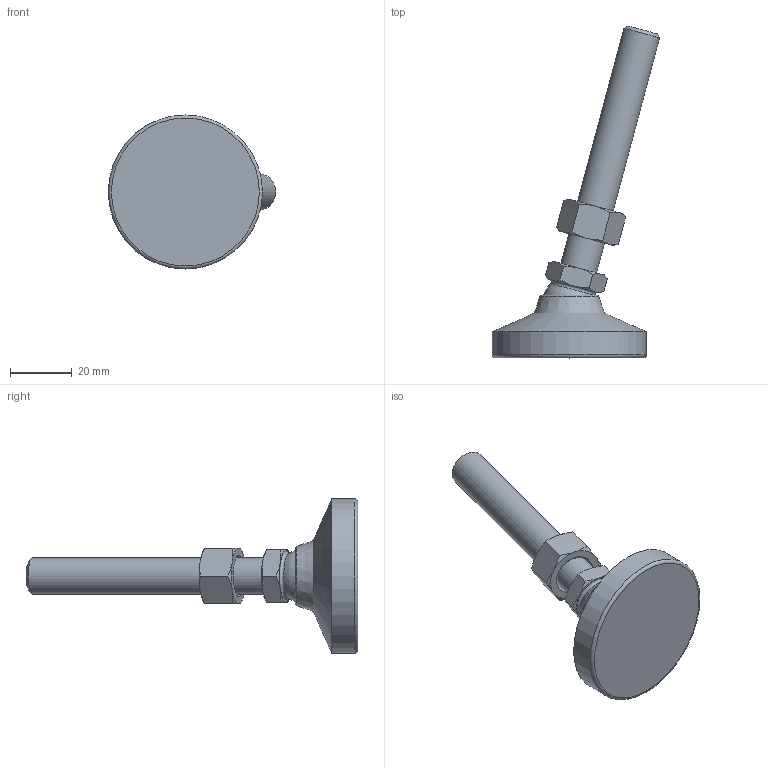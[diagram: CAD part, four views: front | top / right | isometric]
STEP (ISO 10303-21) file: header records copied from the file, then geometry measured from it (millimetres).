
FILE_DESCRIPTION( ( 'STEP AP214' ), ' ' );
FILE_NAME( 'O:/ganter_2015/teil_2/2_5/gn343_2/gn343_2_kr/Levelling foot with threaded stud GN 343.2-50-M12-80-KR-(-15).stp', '2015-10-26T09:13:51', ( '' ), ( '' ), ' ', 'PARTsolutions', ' ' );
FILE_SCHEMA( ( 'AUTOMOTIVE_DESIGN { 1 0 10303 214 1 1 1 1 }' ) );
Length unit declared in the file: millimetre
Products named in the file (4): Levelling foot with threaded stud GN 343.2-50-M12-80-KR-(-15); _Levelling foot with threaded stud GN 343.2-50-M12-80-KR-(-15)_foot; _Levelling foot with threaded stud GN 343.2-50-M12-80-KR-(-15)_screw; _Levelling foot with threaded stud GN 343.2-50-M12-80-KR-(-15)_nut
Assembly tree (3 placements, depth 2):
  Levelling foot with threaded stud GN 343.2-50-M12-80-KR-(-15)
    _Levelling foot with threaded stud GN 343.2-50-M12-80-KR-(-15)_foot
    _Levelling foot with threaded stud GN 343.2-50-M12-80-KR-(-15)_screw
    _Levelling foot with threaded stud GN 343.2-50-M12-80-KR-(-15)_nut
Bounding box: 54.29 x 107.67 x 50 mm (x, y, z)
Volume: 38445.7 mm3; surface area: 11780.9 mm2
Topology: 3 solids, 3 shells, 56 faces, 117 edges, 68 vertices
Faces by surface type: cone 29, plane 19, torus 3, cylinder 3, sphere 2
Full cylindrical faces by diameter (mm): 10.106 x1, 12 x1, 50 x1
Entity records: 2066 total; most frequent: CARTESIAN_POINT 498, DIRECTION 212, ORIENTED_EDGE 200, AXIS2_PLACEMENT_3D 100, EDGE_CURVE 100, EDGE_LOOP 72, VERTEX_POINT 66, FACE_OUTER_BOUND 62
